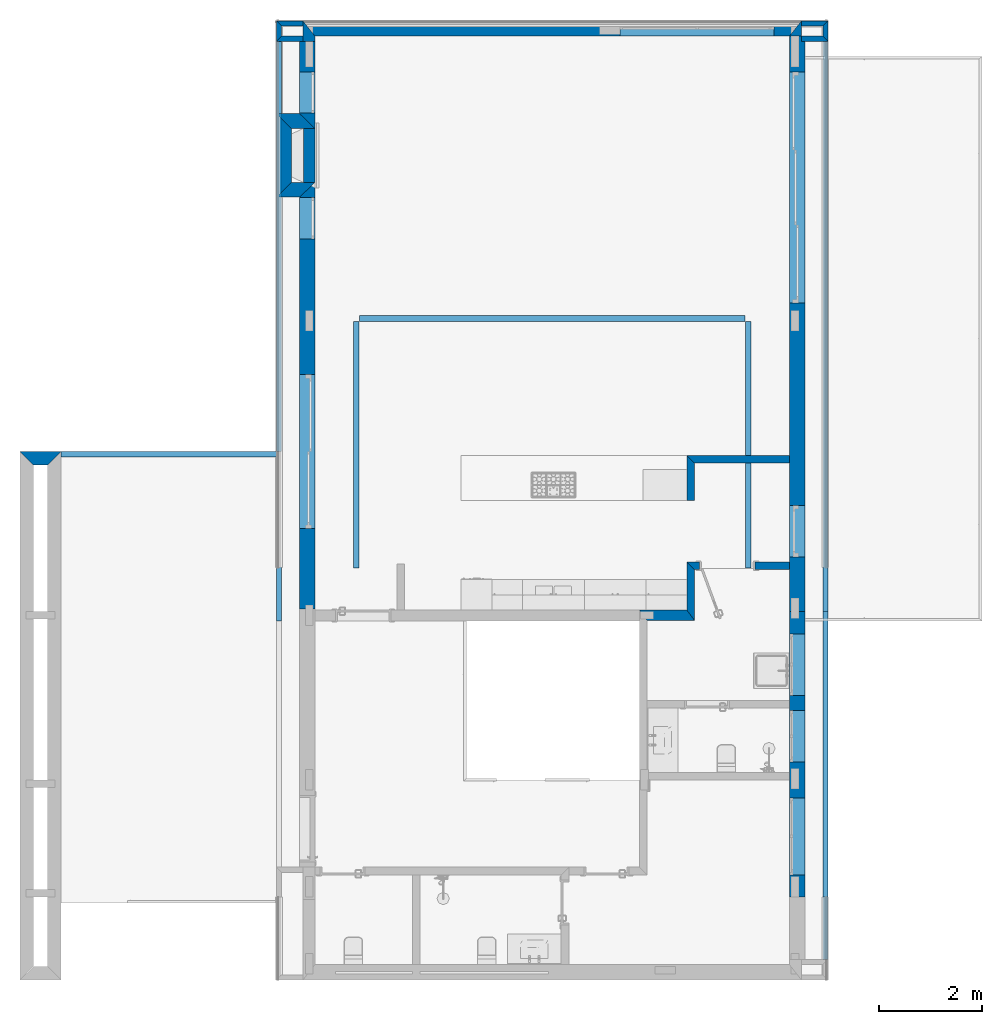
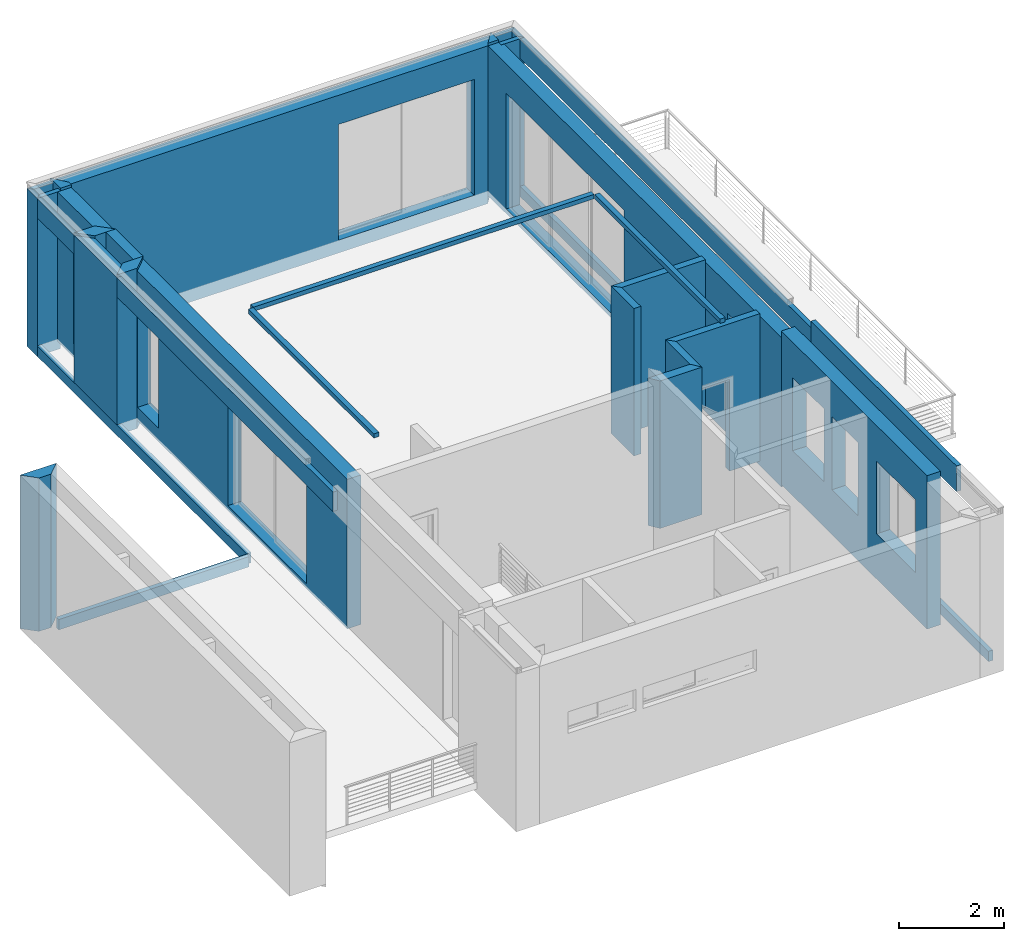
# One storey, part 8 of 26: 33 walls, 11 openings.
"""IFC2X3 building model written with IfcOpenShell, lengths in millimetres."""

from ifc_helpers import new_model, entity, si_unit, converted_unit, money_unit, direction, frame, origin_with_axes, origin_2d_with_axis, place, context, subcontext, project, spatial, polyline, rectangle, outline, extrude, material, layer, layer_set, layer_usage, type_object, element, save


model = new_model("IFC2X3")

# Units and contexts
model_context = context("Model", 3, precision=1e-05, world=origin_with_axes(), true_north=direction((0.0, 1.0)))
body_context = subcontext(model_context, "Body", "Model", "MODEL_VIEW")
ifc_project = project(units=[si_unit("LENGTHUNIT", "METRE", prefix="MILLI"), si_unit("AREAUNIT", "SQUARE_METRE"), si_unit("VOLUMEUNIT", "CUBIC_METRE"), converted_unit("PLANEANGLEUNIT", "DEGREE", entity("IfcPlaneAngleMeasure", 0.0174532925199), si_unit("PLANEANGLEUNIT", "RADIAN"), dimensions=[0, 0, 0, 0, 0, 0, 0]), si_unit("SOLIDANGLEUNIT", "STERADIAN"), money_unit("USD"), converted_unit("TIMEUNIT", "Year", entity("IfcTimeMeasure", 31556926.0), si_unit("TIMEUNIT", "SECOND"), dimensions=[0, 0, 0, 0, 0, 0, 0]), si_unit("MASSUNIT", "GRAM"), si_unit("THERMODYNAMICTEMPERATUREUNIT", "DEGREE_CELSIUS"), si_unit("LUMINOUSINTENSITYUNIT", "LUMEN")], contexts=[model_context])

# Site, building, storey
site_placement = place(None, origin_with_axes())
site = spatial("IfcSite", under=ifc_project, at=site_placement, Name="Grove Residential", CompositionType="ELEMENT")
building_placement = place(site_placement, origin_with_axes())
building = spatial("IfcBuilding", under=site, at=building_placement, Name="Building", CompositionType="ELEMENT")
storey_placement = place(building_placement, origin_with_axes())
storey = spatial("IfcBuildingStorey", under=building, at=storey_placement, Name="Ground Floor", CompositionType="ELEMENT", Elevation=0.0)

# Walls
ifc_material_1 = material(Name="Wall Tiles")
ifc_layer_1 = layer(ifc_material_1, 12.5, ventilated="UNKNOWN")
ifc_material_2 = material(Name="Gypsum Plasterboard - Waterproof")
ifc_layer_2 = layer(ifc_material_2, 12.5, ventilated="UNKNOWN")
ifc_material_3 = material(Name="Air Space - Frame")
ifc_layer_3 = layer(ifc_material_3, 100.0, ventilated="UNKNOWN")
ifc_layer_4 = layer(ifc_material_2, 12.5, ventilated="UNKNOWN")
ifc_layer_5 = layer(ifc_material_1, 12.5, ventilated="UNKNOWN")
ifc_layer_set_1 = layer_set([ifc_layer_1, ifc_layer_2, ifc_layer_3, ifc_layer_4, ifc_layer_5], Name="IWF-006")
ifc_layer_usage_1 = layer_usage(ifc_layer_set_1, "AXIS2", "POSITIVE", -150.0)
wall_type_1 = type_object("IfcWallType", Name="IWF-006 150", PredefinedType="NOTDEFINED")
wall_1_placement = place(storey_placement, frame((8150.0, 9925.0, 0.0), z_axis=(0.0, 0.0, 1.0), x_axis=(0.0, -1.0, 0.0)))
element("IfcWallStandardCase", 1, at=wall_1_placement, inside=storey, type_object=wall_type_1, material=ifc_layer_usage_1, Name="SW - 002", context=body_context, shape_type="SweptSolid", body=[
    extrude(outline(polyline([(-150.0, -150.0), (725.0, -150.0), (725.0, 0.0), (0.0, 0.0), (-150.0, -150.0)])), origin_with_axes(), (0.0, 0.0, 1.0), 3440.0),
])
ifc_layer_usage_2 = layer_usage(ifc_layer_set_1, "AXIS2", "NEGATIVE", 150.0)
wall_2_placement = place(storey_placement, frame((8150.0, 9925.0, 0.0), z_axis=(0.0, 0.0, 1.0), x_axis=(1.0, 0.0, 0.0)))
element("IfcWallStandardCase", 2, at=wall_2_placement, inside=storey, type_object=wall_type_1, material=ifc_layer_usage_2, Name="SW - 002", context=body_context, shape_type="SweptSolid", body=[
    extrude(outline(polyline([(0.0, 0.0), (1850.0, 0.0), (1850.0, 150.0), (-150.0, 150.0), (0.0, 0.0)])), origin_with_axes(), (0.0, 0.0, 1.0), 3440.0),
])
ifc_material_4 = material(Name="Stonework wall")
ifc_layer_6 = layer(ifc_material_4, 50.0, ventilated="UNKNOWN")
ifc_material_5 = material(Name="Air Space")
ifc_layer_7 = layer(ifc_material_5, 65.0, ventilated="UNKNOWN")
ifc_material_6 = material(Name="Concrete Block")
ifc_layer_8 = layer(ifc_material_6, 150.0, ventilated="UNKNOWN")
ifc_layer_set_2 = layer_set([ifc_layer_6, ifc_layer_7, ifc_layer_8], Name="EWF - 010")
ifc_layer_usage_3 = layer_usage(ifc_layer_set_2, "AXIS2", "POSITIVE", -115.0)
wall_type_2 = type_object("IfcWallType", Name="EWF - 010 265", PredefinedType="NOTDEFINED")
wall_3_placement = place(storey_placement, frame((-4315.0, 10035.0, -50.0), z_axis=(0.0, 0.0, 1.0), x_axis=(-1.0, 0.0, 0.0)))
element("IfcWallStandardCase", 3, at=wall_3_placement, inside=storey, type_object=wall_type_2, material=ifc_layer_usage_3, Name="SW - 002", context=body_context, shape_type="SweptSolid", body=[
    extrude(outline(polyline([(-115.0, -115.0), (685.0, -115.0), (420.0, 150.0), (150.0, 150.0), (-115.0, -115.0)])), origin_with_axes(), (0.0, 0.0, 1.0), 3580.0),
])
ifc_material_7 = material(Name="Insulation - Plastic Soft")
ifc_layer_9 = layer(ifc_material_7, 50.0, ventilated="UNKNOWN")
ifc_layer_10 = layer(ifc_material_6, 150.0, ventilated="UNKNOWN")
ifc_material_8 = material(Name="Air Space - Fixing Zone")
ifc_layer_11 = layer(ifc_material_8, 10.0, ventilated="UNKNOWN")
ifc_material_9 = material(Name="Gypsum Plasterboard")
ifc_layer_12 = layer(ifc_material_9, 12.5, ventilated="UNKNOWN")
ifc_layer_13 = layer(ifc_material_9, 12.5, ventilated="UNKNOWN")
ifc_layer_set_3 = layer_set([ifc_layer_9, ifc_layer_10, ifc_layer_11, ifc_layer_12, ifc_layer_13], Name="EWF - 004")
ifc_layer_usage_4 = layer_usage(ifc_layer_set_3, "AXIS2", "NEGATIVE", 50.0)
wall_type_3 = type_object("IfcWallType", Name="EWF - 004 235", PredefinedType="NOTDEFINED")
wall_4_placement = place(storey_placement, frame((10185.0, 18435.0, 0.0), z_axis=(0.0, 0.0, 1.0), x_axis=(0.0, -1.0, 0.0)))
element("IfcWallStandardCase", 4, at=wall_4_placement, inside=storey, type_object=wall_type_3, material=ifc_layer_usage_4, Name="SW - 002", context=body_context, shape_type="SweptSolid", body=[
    extrude(outline(polyline([(185.0, -185.0), (185.0, 50.0), (-115.0, 50.0), (185.0, -185.0)])), origin_with_axes(), (0.0, 0.0, 1.0), 3440.0),
])
ifc_layer_usage_5 = layer_usage(ifc_layer_set_3, "AXIS2", "NEGATIVE", 50.0)
wall_5_placement = place(storey_placement, frame((564.999983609, 18150.0, 0.0), z_axis=(0.0, 0.0, 1.0), x_axis=(0.0, 1.0, 0.0)))
element("IfcWallStandardCase", 5, at=wall_5_placement, inside=storey, type_object=wall_type_3, material=ifc_layer_usage_5, Name="SW - 001", context=body_context, shape_type="SweptSolid", body=[
    extrude(outline(polyline([(0.0, -185.0), (100.0, -185.0), (400.0, 50.0), (0.0, 50.0), (0.0, -185.0)])), origin_with_axes(), (0.0, 0.0, 1.0), 3440.0),
])

# Wall, opening
ifc_material_10 = material(Name="External Render")
ifc_layer_14 = layer(ifc_material_10, 20.0, ventilated="UNKNOWN")
ifc_material_11 = material(Name="Cement Board")
ifc_layer_15 = layer(ifc_material_11, 10.0, ventilated="UNKNOWN")
ifc_layer_16 = layer(ifc_material_5, 35.0, ventilated="UNKNOWN")
ifc_layer_17 = layer(ifc_material_7, 50.0, ventilated="UNKNOWN")
ifc_layer_18 = layer(ifc_material_6, 150.0, ventilated="UNKNOWN")
ifc_layer_19 = layer(ifc_material_8, 10.0, ventilated="UNKNOWN")
ifc_layer_20 = layer(ifc_material_9, 12.5, ventilated="UNKNOWN")
ifc_layer_21 = layer(ifc_material_9, 12.5, ventilated="UNKNOWN")
ifc_layer_set_4 = layer_set([ifc_layer_14, ifc_layer_15, ifc_layer_16, ifc_layer_17, ifc_layer_18, ifc_layer_19, ifc_layer_20, ifc_layer_21], Name="EWF - 001")
ifc_layer_usage_6 = layer_usage(ifc_layer_set_4, "AXIS2", "NEGATIVE", 115.0)
wall_type_4 = type_object("IfcWallType", Name="EWF - 001 300", PredefinedType="NOTDEFINED")
wall_6_placement = place(storey_placement, frame((564.999983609, 18435.0, -300.0), z_axis=(0.0, 0.0, 1.0), x_axis=(1.0, 0.0, 0.0)))
wall_6 = element("IfcWallStandardCase", 6, at=wall_6_placement, inside=storey, type_object=wall_type_4, material=ifc_layer_usage_6, Name="SW - 001", context=body_context, shape_type="SweptSolid", body=[
    extrude(outline(polyline([(185.0, -185.0), (9435.00001639, -185.0), (9670.00001639, 115.0), (-50.0, 115.0), (185.0, -185.0)])), origin_with_axes(), (0.0, 0.0, 1.0), 3680.0),
])
opening_1_placement = place(wall_6_placement, frame((7635.00001639, 0.0, 300.0), z_axis=(0.0, 0.0, 1.0), x_axis=(1.0, 0.0, 0.0)))
element("IfcOpeningElement", 7, at=opening_1_placement, cuts=wall_6, Name="W.10", context=body_context, shape_type="SweptSolid", body=[
    extrude(rectangle(XDim=3000.0, YDim=2700.0, at=origin_2d_with_axis()), frame((0.0, -5.0, 1350.0), z_axis=(0.0, -1.0, 0.0), x_axis=(1.0, 0.0, 0.0)), (0.0, 0.0, 1.0), 480.0),
    extrude(rectangle(XDim=3000.0, YDim=2700.0, at=origin_2d_with_axis()), frame((0.0, -5.0, 1350.0), z_axis=(0.0, 1.0, 0.0), x_axis=(1.0, 0.0, 0.0)), (0.0, 0.0, 1.0), 420.0),
])

# Wall
ifc_layer_22 = layer(ifc_material_1, 12.5, ventilated="UNKNOWN")
ifc_layer_23 = layer(ifc_material_2, 12.5, ventilated="UNKNOWN")
ifc_layer_24 = layer(ifc_material_3, 50.0, ventilated="UNKNOWN")
ifc_material_12 = material(Name="Insulation - Mineral Soft")
ifc_layer_25 = layer(ifc_material_12, 50.0, ventilated="UNKNOWN")
ifc_layer_26 = layer(ifc_material_2, 12.5, ventilated="UNKNOWN")
ifc_layer_27 = layer(ifc_material_1, 12.5, ventilated="UNKNOWN")
ifc_layer_set_5 = layer_set([ifc_layer_22, ifc_layer_23, ifc_layer_24, ifc_layer_25, ifc_layer_26, ifc_layer_27], Name="IWF-003")
ifc_layer_usage_7 = layer_usage(ifc_layer_set_5, "AXIS2", "POSITIVE", -150.0)
wall_type_5 = type_object("IfcWallType", Name="IWF-003 150", PredefinedType="NOTDEFINED")
wall_7_placement = place(storey_placement, frame((8150.0, 7850.0, 0.0), z_axis=(0.0, 0.0, 1.0), x_axis=(0.0, -1.0, 0.0)))
element("IfcWallStandardCase", 8, at=wall_7_placement, inside=storey, type_object=wall_type_5, material=ifc_layer_usage_7, Name="SW - 002", context=body_context, shape_type="SweptSolid", body=[
    extrude(outline(polyline([(-150.0, -150.0), (789.999818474, -150.0), (989.999818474, 0.0), (0.0, 0.0), (-150.0, -150.0)])), origin_with_axes(), (0.0, 0.0, 1.0), 3440.0),
])

# Wall, opening
ifc_layer_28 = layer(ifc_material_1, 12.5, ventilated="UNKNOWN")
ifc_layer_29 = layer(ifc_material_2, 12.5, ventilated="UNKNOWN")
ifc_layer_30 = layer(ifc_material_3, 50.0, ventilated="UNKNOWN")
ifc_layer_31 = layer(ifc_material_12, 50.0, ventilated="UNKNOWN")
ifc_layer_32 = layer(ifc_material_9, 12.5, ventilated="UNKNOWN")
ifc_layer_33 = layer(ifc_material_9, 12.5, ventilated="UNKNOWN")
ifc_layer_set_6 = layer_set([ifc_layer_28, ifc_layer_29, ifc_layer_30, ifc_layer_31, ifc_layer_32, ifc_layer_33], Name="IWF-002")
ifc_layer_usage_8 = layer_usage(ifc_layer_set_6, "AXIS2", "NEGATIVE", 0.0)
wall_type_6 = type_object("IfcWallType", Name="IWF-002 150", PredefinedType="NOTDEFINED")
wall_8_placement = place(storey_placement, frame((10185.0, 7850.0, 0.0), z_axis=(0.0, 0.0, 1.0), x_axis=(-1.0, 0.0, 0.0)))
wall_8 = element("IfcWallStandardCase", 9, at=wall_8_placement, inside=storey, type_object=wall_type_6, material=ifc_layer_usage_8, Name="SW - 001", context=body_context, shape_type="SweptSolid", body=[
    extrude(outline(polyline([(185.0, -150.0), (2185.0, -150.0), (2035.0, 0.0), (185.0, 0.0), (185.0, -150.0)])), origin_with_axes(), (0.0, 0.0, 1.0), 3440.0),
])
opening_2_placement = place(wall_8_placement, frame((1395.0, 0.0, 0.0), z_axis=(0.0, 0.0, 1.0), x_axis=(1.0, 0.0, 0.0)))
element("IfcOpeningElement", 10, at=opening_2_placement, cuts=wall_8, Name="D.02", context=body_context, shape_type="SweptSolid", body=[
    extrude(rectangle(XDim=1080.0, YDim=2140.0, at=origin_2d_with_axis()), frame((0.0, 150.0, 1070.0), z_axis=(0.0, -1.0, 0.0), x_axis=(1.0, 0.0, 0.0)), (0.0, 0.0, 1.0), 450.0),
    extrude(rectangle(XDim=1224.0, YDim=2212.0, at=origin_2d_with_axis()), frame((0.0, 0.0, 1106.0), z_axis=(0.0, -1.0, 0.0), x_axis=(1.0, 0.0, 0.0)), (0.0, 0.0, -1.0), 150.0),
    extrude(rectangle(XDim=1224.0, YDim=2212.0, at=origin_2d_with_axis()), frame((0.0, -150.0, 1106.0), z_axis=(0.0, 1.0, 0.0), x_axis=(1.0, 0.0, 0.0)), (0.0, 0.0, -1.0), 150.0),
])

# Walls
ifc_layer_34 = layer(ifc_material_10, 20.0, ventilated="UNKNOWN")
ifc_layer_35 = layer(ifc_material_11, 10.0, ventilated="UNKNOWN")
ifc_layer_36 = layer(ifc_material_3, 70.0, ventilated="UNKNOWN")
ifc_layer_set_7 = layer_set([ifc_layer_34, ifc_layer_35, ifc_layer_36], Name="EWF - 003")
ifc_layer_usage_9 = layer_usage(ifc_layer_set_7, "AXIS2", "NEGATIVE", 115.0)
wall_type_7 = type_object("IfcWallType", Name="EWF - 003 100", PredefinedType="NOTDEFINED")
wall_9_placement = place(storey_placement, frame((10185.0, 18435.0, -300.0), z_axis=(0.0, 0.0, 1.0), x_axis=(1.0, 0.0, 0.0)))
element("IfcWallStandardCase", 11, at=wall_9_placement, inside=storey, type_object=wall_type_7, material=ifc_layer_usage_9, Name="SW - 001", context=body_context, shape_type="SweptSolid", body=[
    extrude(outline(polyline([(50.0, 15.0), (465.0, 15.0), (565.0, 115.0), (50.0, 115.0), (50.0, 15.0)])), origin_with_axes(), (0.0, 0.0, 1.0), 3680.0),
])
ifc_layer_usage_10 = layer_usage(ifc_layer_set_7, "AXIS2", "NEGATIVE", 115.0)
wall_10_placement = place(storey_placement, frame((10635.0, 18435.0, -300.0), z_axis=(0.0, 0.0, 1.0), x_axis=(0.0, -1.0, 0.0)))
element("IfcWallStandardCase", 12, at=wall_10_placement, inside=storey, type_object=wall_type_7, material=ifc_layer_usage_10, Name="SW - 001", context=body_context, shape_type="SweptSolid", body=[
    extrude(outline(polyline([(-15.0, 15.0), (185.0, 15.0), (285.0, 115.0), (-115.0, 115.0), (-15.0, 15.0)])), origin_with_axes(), (0.0, 0.0, 1.0), 3680.0),
])
ifc_layer_usage_11 = layer_usage(ifc_layer_set_7, "AXIS2", "NEGATIVE", 115.0)
wall_11_placement = place(storey_placement, frame((10635.0, 18265.0, -300.0), z_axis=(0.0, 0.0, 1.0), x_axis=(-1.0, 0.0, 0.0)))
element("IfcWallStandardCase", 13, at=wall_11_placement, inside=storey, type_object=wall_type_7, material=ifc_layer_usage_11, Name="SW - 002", context=body_context, shape_type="SweptSolid", body=[
    extrude(outline(polyline([(-15.0, 15.0), (400.0, 15.0), (400.0, 115.0), (-115.0, 115.0), (-15.0, 15.0)])), origin_with_axes(), (0.0, 0.0, 1.0), 3680.0),
])
ifc_layer_usage_12 = layer_usage(ifc_layer_set_7, "AXIS2", "POSITIVE", -115.0)
wall_12_placement = place(storey_placement, frame((564.999983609, 18435.0, -300.0), z_axis=(0.0, 0.0, 1.0), x_axis=(-1.0, 0.0, 0.0)))
element("IfcWallStandardCase", 14, at=wall_12_placement, inside=storey, type_object=wall_type_7, material=ifc_layer_usage_12, Name="SW - 001", context=body_context, shape_type="SweptSolid", body=[
    extrude(outline(polyline([(50.0, -115.0), (564.999983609, -115.0), (464.999983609, -15.0), (50.0, -15.0), (50.0, -115.0)])), origin_with_axes(), (0.0, 0.0, 1.0), 3680.0),
])
ifc_layer_usage_13 = layer_usage(ifc_layer_set_7, "AXIS2", "POSITIVE", -115.0)
wall_13_placement = place(storey_placement, frame((115.0, 18435.0, -300.0), z_axis=(0.0, 0.0, 1.0), x_axis=(0.0, -1.0, 0.0)))
element("IfcWallStandardCase", 15, at=wall_13_placement, inside=storey, type_object=wall_type_7, material=ifc_layer_usage_13, Name="SW - 001", context=body_context, shape_type="SweptSolid", body=[
    extrude(outline(polyline([(-115.0, -115.0), (285.0, -115.0), (185.0, -15.0), (-15.0, -15.0), (-115.0, -115.0)])), origin_with_axes(), (0.0, 0.0, 1.0), 3680.0),
])
ifc_layer_usage_14 = layer_usage(ifc_layer_set_7, "AXIS2", "POSITIVE", -115.0)
wall_14_placement = place(storey_placement, frame((115.0, 18265.0, -300.0), z_axis=(0.0, 0.0, 1.0), x_axis=(1.0, 0.0, 0.0)))
element("IfcWallStandardCase", 16, at=wall_14_placement, inside=storey, type_object=wall_type_7, material=ifc_layer_usage_14, Name="SW - 002", context=body_context, shape_type="SweptSolid", body=[
    extrude(outline(polyline([(-115.0, -115.0), (399.999983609, -115.0), (399.999983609, -15.0), (-15.0, -15.0), (-115.0, -115.0)])), origin_with_axes(), (0.0, 0.0, 1.0), 3680.0),
])
ifc_layer_37 = layer(ifc_material_10, 20.0, ventilated="UNKNOWN")
ifc_layer_38 = layer(ifc_material_11, 10.0, ventilated="UNKNOWN")
ifc_layer_39 = layer(ifc_material_8, 25.0, ventilated="UNKNOWN")
ifc_layer_40 = layer(ifc_material_7, 50.0, ventilated="UNKNOWN")
ifc_layer_41 = layer(ifc_material_6, 150.0, ventilated="UNKNOWN")
ifc_material_13 = material(Name="Brick - Fireplace")
ifc_layer_42 = layer(ifc_material_13, 35.0, ventilated="UNKNOWN")
ifc_layer_set_8 = layer_set([ifc_layer_37, ifc_layer_38, ifc_layer_39, ifc_layer_40, ifc_layer_41, ifc_layer_42], Name="EWF - 005")
ifc_layer_usage_15 = layer_usage(ifc_layer_set_8, "AXIS2", "NEGATIVE", 105.0)
wall_type_8 = type_object("IfcWallType", Name="EWF - 005 290", PredefinedType="NOTDEFINED")
wall_15_placement = place(storey_placement, frame((105.0, 16635.0, -300.0), z_axis=(0.0, 0.0, 1.0), x_axis=(1.0, 0.0, 0.0)))
element("IfcWallStandardCase", 17, at=wall_15_placement, inside=storey, type_object=wall_type_8, material=ifc_layer_usage_15, Name="SW - 001", context=body_context, shape_type="SweptSolid", body=[
    extrude(outline(polyline([(185.0, -185.0), (644.999983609, -185.0), (344.999983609, 105.0), (-105.0, 105.0), (185.0, -185.0)])), origin_with_axes(), (0.0, 0.0, 1.0), 3740.0),
])
ifc_layer_usage_16 = layer_usage(ifc_layer_set_8, "AXIS2", "POSITIVE", -105.0)
wall_16_placement = place(storey_placement, frame((105.0, 16635.0, -60.0), z_axis=(0.0, 0.0, 1.0), x_axis=(0.0, -1.0, 0.0)))
element("IfcWallStandardCase", 18, at=wall_16_placement, inside=storey, type_object=wall_type_8, material=ifc_layer_usage_16, Name="SW - 002", context=body_context, shape_type="SweptSolid", body=[
    extrude(outline(polyline([(-105.0, -105.0), (1525.0, -105.0), (1235.0, 185.0), (185.0, 185.0), (-105.0, -105.0)])), origin_with_axes(), (0.0, 0.0, 1.0), 3440.0),
])
ifc_layer_usage_17 = layer_usage(ifc_layer_set_8, "AXIS2", "POSITIVE", -105.0)
wall_17_placement = place(storey_placement, frame((105.0, 15215.0, -300.0), z_axis=(0.0, 0.0, 1.0), x_axis=(1.0, 0.0, 0.0)))
element("IfcWallStandardCase", 19, at=wall_17_placement, inside=storey, type_object=wall_type_8, material=ifc_layer_usage_17, Name="SW - 003", context=body_context, shape_type="SweptSolid", body=[
    extrude(outline(polyline([(-105.0, -105.0), (344.99993667, -105.0), (644.99993667, 185.0), (185.0, 185.0), (-105.0, -105.0)])), origin_with_axes(), (0.0, 0.0, 1.0), 3740.0),
])

# Wall, opening
ifc_layer_43 = layer(ifc_material_13, 35.0, ventilated="UNKNOWN")
ifc_layer_44 = layer(ifc_material_6, 150.0, ventilated="UNKNOWN")
ifc_layer_45 = layer(ifc_material_8, 10.0, ventilated="UNKNOWN")
ifc_layer_46 = layer(ifc_material_9, 12.5, ventilated="UNKNOWN")
ifc_layer_47 = layer(ifc_material_9, 12.5, ventilated="UNKNOWN")
ifc_layer_set_9 = layer_set([ifc_layer_43, ifc_layer_44, ifc_layer_45, ifc_layer_46, ifc_layer_47], Name="EWF - 006")
ifc_layer_usage_18 = layer_usage(ifc_layer_set_9, "AXIS2", "NEGATIVE", 35.0)
wall_type_9 = type_object("IfcWallType", Name="EWF - 006 220", PredefinedType="NOTDEFINED")
wall_18_placement = place(storey_placement, frame((564.999983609, 15215.0, -60.0), z_axis=(0.0, 0.0, 1.0), x_axis=(0.0, 1.0, 0.0)))
wall_18 = element("IfcWallStandardCase", 20, at=wall_18_placement, inside=storey, type_object=wall_type_9, material=ifc_layer_usage_18, Name="SW - 004", context=body_context, shape_type="SweptSolid", body=[
    extrude(outline(polyline([(185.0, -185.0), (1235.0, -185.0), (1235.0, 35.0), (185.0, 35.0), (185.0, -185.0)])), origin_with_axes(), (0.0, 0.0, 1.0), 3500.0),
])
opening_3_placement = place(wall_18_placement, frame((710.0, 0.0, 60.0), z_axis=(0.0, 0.0, 1.0), x_axis=(1.0, 0.0, 0.0)))
element("IfcOpeningElement", 21, at=opening_3_placement, cuts=wall_18, Name="W.05", context=body_context, shape_type="SweptSolid", body=[
    extrude(rectangle(XDim=1050.0, YDim=900.0, at=origin_2d_with_axis()), frame((0.0, -30.0, 450.0), z_axis=(0.0, 1.0, 0.0), x_axis=(1.0, 0.0, 0.0)), (0.0, 0.0, -1.0), 220.0),
    extrude(rectangle(XDim=1050.0, YDim=900.0, at=origin_2d_with_axis()), frame((0.0, -30.0, 450.0), z_axis=(0.0, -1.0, 0.0), x_axis=(1.0, 0.0, 0.0)), (0.0, 0.0, -1.0), 220.0),
])

ifc_material_14 = material(Name="Timber - External Cladding")
ifc_layer_48 = layer(ifc_material_14, 40.0, ventilated="UNKNOWN")
ifc_layer_49 = layer(ifc_material_8, 25.0, ventilated="UNKNOWN")
ifc_layer_50 = layer(ifc_material_7, 50.0, ventilated="UNKNOWN")
ifc_layer_51 = layer(ifc_material_6, 150.0, ventilated="UNKNOWN")
ifc_layer_52 = layer(ifc_material_8, 10.0, ventilated="UNKNOWN")
ifc_layer_53 = layer(ifc_material_9, 12.5, ventilated="UNKNOWN")
ifc_layer_54 = layer(ifc_material_9, 12.5, ventilated="UNKNOWN")
ifc_layer_set_10 = layer_set([ifc_layer_48, ifc_layer_49, ifc_layer_50, ifc_layer_51, ifc_layer_52, ifc_layer_53, ifc_layer_54], Name="EWF - 002")
ifc_layer_usage_19 = layer_usage(ifc_layer_set_10, "AXIS2", "NEGATIVE", 115.0)
wall_type_10 = type_object("IfcWallType", Name="EWF - 002 300", PredefinedType="NOTDEFINED")
wall_19_placement = place(storey_placement, frame((564.999983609, 16635.0, -110.0), z_axis=(0.0, 0.0, 1.0), x_axis=(0.0, 1.0, 0.0)))
wall_19 = element("IfcWallStandardCase", 22, at=wall_19_placement, inside=storey, type_object=wall_type_10, material=ifc_layer_usage_19, Name="SW - 001", context=body_context, shape_type="SweptSolid", body=[
    extrude(outline(polyline([(-185.0, -185.0), (1515.0, -185.0), (1515.0, 115.0), (105.0, 115.0), (-185.0, -185.0)])), origin_with_axes(), (0.0, 0.0, 1.0), 3490.0),
])
opening_4_placement = place(wall_19_placement, frame((515.0, 0.0, 310.0), z_axis=(0.0, 0.0, 1.0), x_axis=(1.0, 0.0, 0.0)))
element("IfcOpeningElement", 23, at=opening_4_placement, cuts=wall_19, Name="W.01", context=body_context, shape_type="SweptSolid", body=[
    extrude(rectangle(XDim=800.0, YDim=2500.0, at=origin_2d_with_axis()), frame((0.0, -120.0, 1250.0), z_axis=(0.0, 1.0, 0.0), x_axis=(1.0, 0.0, 0.0)), (0.0, 0.0, 1.0), 535.0),
    extrude(rectangle(XDim=800.0, YDim=2500.0, at=origin_2d_with_axis()), frame((0.0, -120.0, 1250.0), z_axis=(0.0, -1.0, 0.0), x_axis=(1.0, 0.0, 0.0)), (0.0, 0.0, 1.0), 365.0),
])

# Wall, openings
ifc_layer_usage_20 = layer_usage(ifc_layer_set_10, "AXIS2", "NEGATIVE", 115.0)
wall_20_placement = place(storey_placement, frame((10185.0, 18250.0, -110.0), z_axis=(0.0, 0.0, 1.0), x_axis=(0.0, -1.0, 0.0)))
wall_20 = element("IfcWallStandardCase", 24, at=wall_20_placement, inside=storey, type_object=wall_type_10, material=ifc_layer_usage_20, Name="SW - 002", context=body_context, shape_type="SweptSolid", body=[
    extrude(outline(polyline([(0.0, -185.0), (11215.0, -185.0), (11215.0, 115.0), (0.0, 115.0), (0.0, -185.0)])), origin_with_axes(), (0.0, 0.0, 1.0), 3490.0),
])
opening_5_placement = place(wall_20_placement, frame((9650.0, 0.0, 110.0), z_axis=(0.0, 0.0, 1.0), x_axis=(1.0, 0.0, 0.0)))
element("IfcOpeningElement", 25, at=opening_5_placement, cuts=wall_20, Name="D.03", context=body_context, shape_type="SweptSolid", body=[
    extrude(rectangle(XDim=1000.0, YDim=2700.0, at=origin_2d_with_axis()), frame((0.0, -5.0, 1350.0), z_axis=(0.0, 1.0, 0.0), x_axis=(-1.0, 0.0, 0.0)), (0.0, 0.0, -1.0), 480.0),
    extrude(rectangle(XDim=1000.0, YDim=2700.0, at=origin_2d_with_axis()), frame((0.0, -5.0, 1350.0), z_axis=(0.0, -1.0, 0.0), x_axis=(-1.0, 0.0, 0.0)), (0.0, 0.0, -1.0), 420.0),
])
opening_6_placement = place(wall_20_placement, frame((2950.0, 0.0, 110.0), z_axis=(0.0, 0.0, 1.0), x_axis=(1.0, 0.0, 0.0)))
element("IfcOpeningElement", 26, at=opening_6_placement, cuts=wall_20, Name="D.11", context=body_context, shape_type="SweptSolid", body=[
    extrude(rectangle(XDim=4500.0, YDim=2700.0, at=origin_2d_with_axis()), frame((0.0, -5.0, 1350.0), z_axis=(0.0, 1.0, 0.0), x_axis=(-1.0, 0.0, 0.0)), (0.0, 0.0, -1.0), 480.0),
    extrude(rectangle(XDim=4500.0, YDim=2700.0, at=origin_2d_with_axis()), frame((0.0, -5.0, 1350.0), z_axis=(0.0, -1.0, 0.0), x_axis=(-1.0, 0.0, 0.0)), (0.0, 0.0, -1.0), 420.0),
])

ifc_layer_usage_21 = layer_usage(ifc_layer_set_10, "AXIS2", "NEGATIVE", 115.0)
wall_21_placement = place(storey_placement, frame((10185.0, 7035.0, -50.0), z_axis=(0.0, 0.0, 1.0), x_axis=(0.0, -1.0, 0.0)))
wall_21 = element("IfcWallStandardCase", 27, at=wall_21_placement, inside=storey, type_object=wall_type_10, material=ifc_layer_usage_21, Name="SW - 002", context=body_context, shape_type="SweptSolid", body=[
    extrude(outline(polyline([(0.0, -185.0), (5570.00007691, -185.0), (5570.00007691, 115.0), (0.0, 115.0), (0.0, -185.0)])), origin_with_axes(), (0.0, 0.0, 1.0), 3580.0),
])
opening_7_placement = place(wall_21_placement, frame((1035.0, 0.0, 1050.0), z_axis=(0.0, 0.0, 1.0), x_axis=(1.0, 0.0, 0.0)))
element("IfcOpeningElement", 28, at=opening_7_placement, cuts=wall_21, Name="W.06", context=body_context, shape_type="SweptSolid", body=[
    extrude(rectangle(XDim=1200.0, YDim=1700.0, at=origin_2d_with_axis()), frame((0.0, -120.0, 850.0), z_axis=(0.0, -1.0, 0.0), x_axis=(-1.0, 0.0, 0.0)), (0.0, 0.0, -1.0), 535.0),
    extrude(rectangle(XDim=1200.0, YDim=1700.0, at=origin_2d_with_axis()), frame((0.0, -120.0, 850.0), z_axis=(0.0, 1.0, 0.0), x_axis=(-1.0, 0.0, 0.0)), (0.0, 0.0, -1.0), 365.0),
])
opening_8_placement = place(wall_21_placement, frame((4385.0, 0.0, 1050.0), z_axis=(0.0, 0.0, 1.0), x_axis=(1.0, 0.0, 0.0)))
element("IfcOpeningElement", 29, at=opening_8_placement, cuts=wall_21, Name="W.08", context=body_context, shape_type="SweptSolid", body=[
    extrude(rectangle(XDim=1500.0, YDim=1700.0, at=origin_2d_with_axis()), frame((0.0, -120.0, 850.0), z_axis=(0.0, -1.0, 0.0), x_axis=(-1.0, 0.0, 0.0)), (0.0, 0.0, -1.0), 535.0),
    extrude(rectangle(XDim=1500.0, YDim=1700.0, at=origin_2d_with_axis()), frame((0.0, -120.0, 850.0), z_axis=(0.0, 1.0, 0.0), x_axis=(-1.0, 0.0, 0.0)), (0.0, 0.0, -1.0), 365.0),
])
opening_9_placement = place(wall_21_placement, frame((2435.0, 0.0, 1050.0), z_axis=(0.0, 0.0, 1.0), x_axis=(1.0, 0.0, 0.0)))
element("IfcOpeningElement", 30, at=opening_9_placement, cuts=wall_21, Name="W.04", context=body_context, shape_type="SweptSolid", body=[
    extrude(rectangle(XDim=1000.0, YDim=1700.0, at=origin_2d_with_axis()), frame((0.0, -120.0, 850.0), z_axis=(0.0, -1.0, 0.0), x_axis=(-1.0, 0.0, 0.0)), (0.0, 0.0, -1.0), 535.0),
    extrude(rectangle(XDim=1000.0, YDim=1700.0, at=origin_2d_with_axis()), frame((0.0, -120.0, 850.0), z_axis=(0.0, 1.0, 0.0), x_axis=(-1.0, 0.0, 0.0)), (0.0, 0.0, -1.0), 365.0),
])

ifc_layer_usage_22 = layer_usage(ifc_layer_set_10, "AXIS2", "NEGATIVE", 115.0)
wall_22_placement = place(storey_placement, frame((564.99993667, 7085.00000687, -110.0), z_axis=(0.0, 0.0, 1.0), x_axis=(0.0, 1.0, 0.0)))
wall_22 = element("IfcWallStandardCase", 31, at=wall_22_placement, inside=storey, type_object=wall_type_10, material=ifc_layer_usage_22, Name="SW - 001", context=body_context, shape_type="SweptSolid", body=[
    extrude(outline(polyline([(0.0, -185.0), (8314.99999313, -185.0), (8024.99999313, 115.0), (0.0, 115.0), (0.0, -185.0)])), origin_with_axes(), (0.0, 0.0, 1.0), 3490.0),
])
opening_10_placement = place(wall_22_placement, frame((7614.99999313, 0.0, 310.0), z_axis=(0.0, 0.0, 1.0), x_axis=(1.0, 0.0, 0.0)))
element("IfcOpeningElement", 32, at=opening_10_placement, cuts=wall_22, Name="W.01", context=body_context, shape_type="SweptSolid", body=[
    extrude(rectangle(XDim=800.0, YDim=2500.0, at=origin_2d_with_axis()), frame((0.0, -120.0, 1250.0), z_axis=(0.0, -1.0, 0.0), x_axis=(-1.0, 0.0, 0.0)), (0.0, 0.0, -1.0), 535.0),
    extrude(rectangle(XDim=800.0, YDim=2500.0, at=origin_2d_with_axis()), frame((0.0, -120.0, 1250.0), z_axis=(0.0, 1.0, 0.0), x_axis=(-1.0, 0.0, 0.0)), (0.0, 0.0, -1.0), 365.0),
])
opening_11_placement = place(wall_22_placement, frame((3064.99999313, 0.0, 110.0), z_axis=(0.0, 0.0, 1.0), x_axis=(1.0, 0.0, 0.0)))
element("IfcOpeningElement", 33, at=opening_11_placement, cuts=wall_22, Name="D.09", context=body_context, shape_type="SweptSolid", body=[
    extrude(rectangle(XDim=3000.0, YDim=2700.0, at=origin_2d_with_axis()), frame((0.0, -5.0, 1350.0), z_axis=(0.0, -1.0, 0.0), x_axis=(1.0, 0.0, 0.0)), (0.0, 0.0, 1.0), 480.0),
    extrude(rectangle(XDim=3000.0, YDim=2700.0, at=origin_2d_with_axis()), frame((0.0, -5.0, 1350.0), z_axis=(0.0, 1.0, 0.0), x_axis=(1.0, 0.0, 0.0)), (0.0, 0.0, 1.0), 420.0),
])

# Walls
ifc_layer_55 = layer(ifc_material_1, 12.5, ventilated="UNKNOWN")
ifc_layer_56 = layer(ifc_material_2, 12.5, ventilated="UNKNOWN")
ifc_layer_57 = layer(ifc_material_3, 100.0, ventilated="UNKNOWN")
ifc_layer_58 = layer(ifc_material_12, 50.0, ventilated="UNKNOWN")
ifc_layer_59 = layer(ifc_material_2, 12.5, ventilated="UNKNOWN")
ifc_layer_60 = layer(ifc_material_1, 12.5, ventilated="UNKNOWN")
ifc_layer_set_11 = layer_set([ifc_layer_55, ifc_layer_56, ifc_layer_57, ifc_layer_58, ifc_layer_59, ifc_layer_60], Name="IWF-004")
ifc_layer_usage_23 = layer_usage(ifc_layer_set_11, "AXIS2", "NEGATIVE", 100.0)
wall_type_11 = type_object("IfcWallType", Name="IWF-004 200", PredefinedType="NOTDEFINED")
wall_23_placement = place(storey_placement, frame((7075.0, 6960.00018153, 0.0), z_axis=(0.0, 0.0, 1.0), x_axis=(1.0, 0.0, 0.0)))
element("IfcWallStandardCase", 34, at=wall_23_placement, inside=storey, type_object=wall_type_11, material=ifc_layer_usage_23, Name="SW - 001", context=body_context, shape_type="SweptSolid", body=[
    extrude(outline(polyline([(150.0, -100.0), (1075.0, -100.0), (925.0, 100.0), (0.0, 100.0), (150.0, -100.0)])), origin_with_axes(), (0.0, 0.0, 1.0), 3440.0),
])
ifc_layer_61 = layer(ifc_material_10, 20.0, ventilated="UNKNOWN")
ifc_layer_62 = layer(ifc_material_11, 10.0, ventilated="UNKNOWN")
ifc_layer_63 = layer(ifc_material_5, 35.0, ventilated="UNKNOWN")
ifc_layer_64 = layer(ifc_material_8, 10.0, ventilated="UNKNOWN")
ifc_layer_65 = layer(ifc_material_9, 12.5, ventilated="UNKNOWN")
ifc_layer_66 = layer(ifc_material_9, 12.5, ventilated="UNKNOWN")
ifc_layer_set_12 = layer_set([ifc_layer_61, ifc_layer_62, ifc_layer_63, ifc_layer_64, ifc_layer_65, ifc_layer_66], Name="EWF - 012")
ifc_layer_usage_24 = layer_usage(ifc_layer_set_12, "AXIS2", "NEGATIVE", 1.38777878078e-14)
wall_type_12 = type_object("IfcWallType", Name="EWF - 012 100", PredefinedType="NOTDEFINED")
wall_24_placement = place(storey_placement, frame((10750.0, 18150.0, 2930.0), z_axis=(0.0, 0.0, 1.0), x_axis=(0.0, -1.0, 0.0)))
element("IfcWallStandardCase", 35, at=wall_24_placement, inside=storey, type_object=wall_type_12, material=ifc_layer_usage_24, Name="SW - 001", context=body_context, shape_type="SweptSolid", body=[
    extrude(outline(polyline([(0.0, -100.0), (11115.0, -100.0), (11115.0, 0.0), (0.0, 0.0), (0.0, -100.0)])), origin_with_axes(), (0.0, 0.0, 1.0), 450.0),
])
ifc_layer_usage_25 = layer_usage(ifc_layer_set_12, "AXIS2", "NEGATIVE", 1.38777878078e-14)
wall_25_placement = place(storey_placement, frame((10750.0, 7035.0, 2930.0), z_axis=(0.0, 0.0, 1.0), x_axis=(0.0, -1.0, 0.0)))
element("IfcWallStandardCase", 36, at=wall_25_placement, inside=storey, type_object=wall_type_12, material=ifc_layer_usage_25, Name="SW - 001", context=body_context, shape_type="SweptSolid", body=[
    extrude(outline(polyline([(0.0, -100.0), (5570.00007691, -100.0), (5570.00007691, 0.0), (0.0, 0.0), (0.0, -100.0)])), origin_with_axes(), (0.0, 0.0, 1.0), 600.0),
])
ifc_layer_usage_26 = layer_usage(ifc_layer_set_12, "AXIS2", "POSITIVE", -1.38777878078e-14)
wall_26_placement = place(storey_placement, frame((0.0, 15110.0, 2930.0), z_axis=(0.0, 0.0, 1.0), x_axis=(0.0, -1.0, 0.0)))
element("IfcWallStandardCase", 37, at=wall_26_placement, inside=storey, type_object=wall_type_12, material=ifc_layer_usage_26, Name="SW - 001", context=body_context, shape_type="SweptSolid", body=[
    extrude(outline(polyline([(0.0, 0.0), (8260.0, 0.0), (8260.0, 100.0), (0.0, 100.0), (0.0, 0.0)])), origin_with_axes(), (0.0, 0.0, 1.0), 450.0),
])
ifc_layer_usage_27 = layer_usage(ifc_layer_set_12, "AXIS2", "POSITIVE", -1.38777878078e-14)
wall_27_placement = place(storey_placement, frame((0.0, 18150.0, 2930.0), z_axis=(0.0, 0.0, 1.0), x_axis=(0.0, -1.0, 0.0)))
element("IfcWallStandardCase", 38, at=wall_27_placement, inside=storey, type_object=wall_type_12, material=ifc_layer_usage_27, Name="SW - 001", context=body_context, shape_type="SweptSolid", body=[
    extrude(outline(polyline([(0.0, 0.0), (1410.0, 0.0), (1410.0, 100.0), (0.0, 100.0), (0.0, 0.0)])), origin_with_axes(), (0.0, 0.0, 1.0), 450.0),
])
ifc_layer_usage_28 = layer_usage(ifc_layer_set_12, "AXIS2", "NEGATIVE", 1.38777878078e-14)
wall_28_placement = place(storey_placement, frame((10750.0, 18150.0, -300.0), z_axis=(0.0, 0.0, 1.0), x_axis=(0.0, -1.0, 0.0)))
element("IfcWallStandardCase", 39, at=wall_28_placement, inside=storey, type_object=wall_type_12, material=ifc_layer_usage_28, Name="SW - 001", context=body_context, shape_type="SweptSolid", body=[
    extrude(outline(polyline([(0.0, -100.0), (17900.0, -100.0), (17900.0, 0.0), (0.0, 0.0), (0.0, -100.0)])), origin_with_axes(), (0.0, 0.0, 1.0), 240.0),
])
ifc_layer_usage_29 = layer_usage(ifc_layer_set_12, "AXIS2", "POSITIVE", -1.38777878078e-14)
wall_29_placement = place(storey_placement, frame((0.0, 18150.0, -300.0), z_axis=(0.0, 0.0, 1.0), x_axis=(0.0, -1.0, 0.0)))
element("IfcWallStandardCase", 40, at=wall_29_placement, inside=storey, type_object=wall_type_12, material=ifc_layer_usage_29, Name="SW - 001", context=body_context, shape_type="SweptSolid", body=[
    extrude(outline(polyline([(0.0, 0.0), (7999.99991059, 0.0), (7999.99991059, 100.0), (0.0, 100.0), (0.0, 0.0)])), origin_with_axes(), (0.0, 0.0, 1.0), 240.0),
])
ifc_layer_usage_30 = layer_usage(ifc_layer_set_12, "AXIS2", "NEGATIVE", 1.38777878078e-14)
wall_30_placement = place(storey_placement, frame((-4200.0, 10150.0000894, -300.0), z_axis=(0.0, 0.0, 1.0), x_axis=(1.0, 0.0, 0.0)))
element("IfcWallStandardCase", 41, at=wall_30_placement, inside=storey, type_object=wall_type_12, material=ifc_layer_usage_30, Name="SW - 001", context=body_context, shape_type="SweptSolid", body=[
    extrude(outline(polyline([(0.0, -100.0), (4200.0, -100.0), (4200.0, 0.0), (0.0, 0.0), (0.0, -100.0)])), origin_with_axes(), (0.0, 0.0, 1.0), 240.0),
])
ifc_layer_67 = layer(ifc_material_14, 40.0, ventilated="UNKNOWN")
ifc_layer_68 = layer(ifc_material_8, 70.0, ventilated="UNKNOWN")
ifc_layer_set_13 = layer_set([ifc_layer_67, ifc_layer_68], Name="EWF - 007")
ifc_layer_usage_31 = layer_usage(ifc_layer_set_13, "AXIS2", "NEGATIVE", 115.0)
wall_type_13 = type_object("IfcWallType", Name="EWF - 007 110", PredefinedType="NOTDEFINED")
wall_31_placement = place(storey_placement, frame((1614.99983549, 7885.0, 3490.0), z_axis=(0.0, 0.0, 1.0), x_axis=(0.0, 1.0, 0.0)))
element("IfcWallStandardCase", 42, at=wall_31_placement, inside=storey, type_object=wall_type_13, material=ifc_layer_usage_31, Name="SW - 002", context=body_context, shape_type="SweptSolid", body=[
    extrude(outline(polyline([(0.0, 5.0), (4800.00010848, 5.0), (4800.00010848, 115.0), (0.0, 115.0), (0.0, 5.0)])), origin_with_axes(), (0.0, 0.0, 1.0), 100.0),
])
ifc_layer_usage_32 = layer_usage(ifc_layer_set_13, "AXIS2", "NEGATIVE", 115.0)
wall_32_placement = place(storey_placement, frame((1614.99983549, 12685.0001085, 3490.0), z_axis=(0.0, 0.0, 1.0), x_axis=(1.0, 0.0, 0.0)))
element("IfcWallStandardCase", 43, at=wall_32_placement, inside=storey, type_object=wall_type_13, material=ifc_layer_usage_32, Name="SW - 002", context=body_context, shape_type="SweptSolid", body=[
    extrude(outline(polyline([(0.0, 5.0), (7520.00016451, 5.0), (7520.00016451, 115.0), (0.0, 115.0), (0.0, 5.0)])), origin_with_axes(), (0.0, 0.0, 1.0), 100.0),
])
ifc_layer_usage_33 = layer_usage(ifc_layer_set_13, "AXIS2", "NEGATIVE", 115.0)
wall_33_placement = place(storey_placement, frame((9135.0, 12685.0001085, 3490.0), z_axis=(0.0, 0.0, 1.0), x_axis=(0.0, -1.0, 0.0)))
element("IfcWallStandardCase", 44, at=wall_33_placement, inside=storey, type_object=wall_type_13, material=ifc_layer_usage_33, Name="SW - 002", context=body_context, shape_type="SweptSolid", body=[
    extrude(outline(polyline([(0.0, 5.0), (4800.00010848, 5.0), (4800.00010848, 115.0), (0.0, 115.0), (0.0, 5.0)])), origin_with_axes(), (0.0, 0.0, 1.0), 100.0),
])

save(model, "model.ifc")
